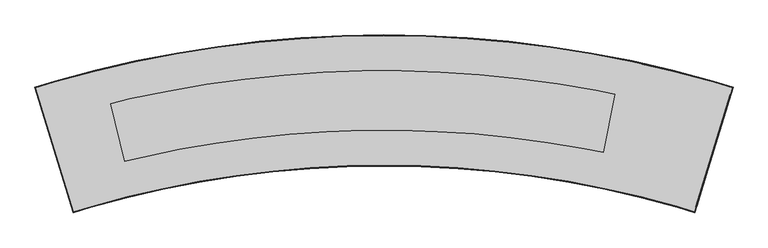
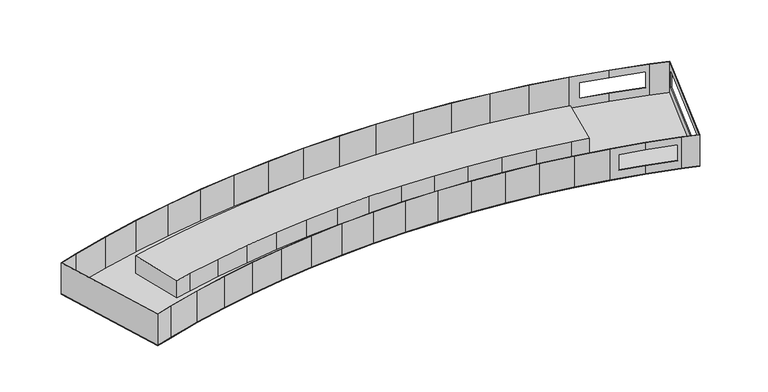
"""IFC4 building model written with IfcOpenShell, lengths in millimetres: proxy geometry, Techno_Конвектор встраиваемый_Usual_KVZ_R-250_85 : KVZ R 250-85_П."""

from ifc_helpers import new_model, si_unit, frame, origin, place, context, project, spatial, polyline, outline, extrude, faceted_brep, source, transform, mapped, element, save


def mechanical_equipment_6d7a2586(model_context):
    return source(origin(), model_context, "Body", "SolidModel", [
        extrude(outline(polyline([(888.1405572, 10.939734), (868.2154773, -87.0551189), (837.6590825, -80.8421537), (776.1618706, -70.4850437), (714.3502505, -62.2085455), (652.2945943, -56.0220819), (590.0655519, -51.9326961), (527.7339705, -49.9450438), (465.3708142, -50.061388), (403.047083, -52.2815962), (340.8337319, -56.6031407), (278.8015904, -63.0211015), (217.0212817, -71.5281718), (155.563142, -82.1146663), (94.4971411, -94.7685324), (64.1949716, -102.1219481), (40.6124484, -4.9423999), (72.5543457, 2.8089279), (136.9247839, 16.1475271), (201.7085805, 27.3068838), (266.8319795, 36.2742934), (332.2208386, 43.0395465), (397.800713, 47.5949408), (463.4969405, 49.9352901), (529.2347265, 50.05793), (594.9392289, 47.9627208), (660.5356438, 43.6520479), (725.94929, 37.1308189), (791.1056947, 28.4064582), (855.9306778, 17.4888985), (888.1405572, 10.939734)])), frame((0.0, 0.0, -69.8), z_axis=(0.0, 0.0, 1.0), x_axis=(1.0, 0.0, 0.0)), (0.0, 0.0, 1.0), 35.0),
        extrude(outline(polyline([(1086.9166428, 22.5197459), (1022.5025267, -188.257344), (992.670603, -179.1406179), (932.4069846, -162.9996836), (871.6169593, -148.9709168), (810.3745323, -137.0713961), (748.7542592, -127.3156078), (686.8311557, -119.7154284), (624.6806064, -114.2801103), (562.3782725, -111.0162705), (500.0, -109.9278822), (437.6217275, -111.0162705), (375.3193936, -114.2801103), (313.1688443, -119.7154284), (251.2457408, -127.3156078), (189.6254677, -137.0713961), (128.3830407, -148.9709168), (67.5930154, -162.9996836), (7.329397, -179.1406179), (-22.5025267, -188.257344), (-86.9166428, 22.5197459), (-53.4070393, 32.7603821), (14.2858785, 50.891171), (82.5700986, 66.6494042), (151.3624926, 80.015898), (220.5793135, 90.97438), (290.1362977, 99.5115095), (359.9487673, 105.6168936), (429.9317335, 109.2830997), (500.0, 110.5056645), (570.0682665, 109.2830997), (640.0512327, 105.6168936), (709.8637023, 99.5115095), (779.4206865, 90.97438), (848.6375074, 80.015898), (917.4299014, 66.6494042), (985.7141215, 50.891171), (1053.4070393, 32.7603821), (1086.9166428, 22.5197459)])), frame((0.0, 0.0, -85.0), z_axis=(0.0, 0.0, 1.0), x_axis=(1.0, 0.0, 0.0)), (0.0, 0.0, 1.0), 1.2),
        faceted_brep([(-86.9166428, 22.5197459, -20.5), (-86.9166428, 22.5197459, -85.0), (-22.5025267, -188.257344, -85.0), (-22.5025267, -188.257344, -20.5), (1022.5025267, -188.257344, -20.5), (1022.5025267, -188.257344, -85.0), (1086.9166428, 22.5197459, -85.0), (1086.9166428, 22.5197459, -20.5), (1025.4835792, -178.5026874, -33.0), (1083.2341661, 10.469876, -33.0), (1083.2341661, 10.469876, -65.0), (1025.4835792, -178.5026874, -65.0), (-85.4183241, 21.7228513, -85.0), (-85.4183241, 21.7228513, -20.5), (-21.7056321, -186.7590253, -20.5), (-21.7056321, -186.7590253, -85.0), (1021.7056321, -186.7590253, -85.0), (1021.7056321, -186.7590253, -20.5), (1085.4183241, 21.7228513, -20.5), (1085.4183241, 21.7228513, -85.0), (1082.0865595, 10.820588, -33.0), (1024.3359726, -178.1519754, -33.0), (1024.3359726, -178.1519754, -65.0), (1082.0865595, 10.820588, -65.0), (7.329397, -179.1406179, -85.0), (7.329397, -179.1406179, -20.5), (6.978685, -177.9930113, -20.5), (6.978685, -177.9930113, -85.0), (67.5930154, -162.9996836, -85.0), (67.5930154, -162.9996836, -20.5), (67.282552, -161.8405406, -20.5), (67.282552, -161.8405406, -85.0), (128.3830407, -148.9709168, -85.0), (128.3830407, -148.9709168, -20.5), (128.1132038, -147.8016486, -20.5), (128.1132038, -147.8016486, -85.0), (189.6254677, -137.0713961, -85.0), (189.6254677, -137.0713961, -20.5), (189.3965859, -135.8934262, -20.5), (189.3965859, -135.8934262, -85.0), (251.2457408, -127.3156078, -85.0), (251.2457408, -127.3156078, -20.5), (251.0580927, -126.1303702, -20.5), (251.0580927, -126.1303702, -85.0), (313.1688443, -119.7154284, -85.0), (313.1688443, -119.7154284, -20.5), (313.0226583, -118.524366, -20.5), (313.0226583, -118.524366, -85.0), (375.3193936, -114.2801103, -85.0), (375.3193936, -114.2801103, -20.5), (375.2148478, -113.0846731, -20.5), (375.2148478, -113.0846731, -85.0), (437.6217275, -111.0162705, -85.0), (437.6217275, -111.0162705, -20.5), (437.5589491, -109.8179138, -20.5), (437.5589491, -109.8179138, -85.0), (500.0, -109.9278822, -85.0), (500.0, -109.9278822, -20.5), (499.9790654, -108.7280648, -20.5), (499.9790654, -108.7280648, -85.0), (562.3782725, -111.0162705, -85.0), (562.3782725, -111.0162705, -20.5), (562.3992071, -109.8164531, -20.5), (562.3992071, -109.8164531, -85.0), (1053.4070393, 32.7603821, -85.0), (1053.4070393, 32.7603821, -20.5), (1053.0563272, 31.6127754, -20.5), (1053.0563272, 31.6127754, -85.0), (985.7141215, 50.891171, -85.0), (985.7141215, 50.891171, -67.0), (1046.7669959, 34.5388432, -67.0), (1046.7669959, 34.5388432, -35.0), (985.7141215, 50.891171, -35.0), (985.7141215, 50.891171, -20.5), (985.4036581, 49.732028, -20.5), (985.4036581, 49.732028, -35.0), (1046.4402753, 33.3840546, -35.0), (1046.4402753, 33.3840546, -67.0), (985.4036581, 49.732028, -67.0), (985.4036581, 49.732028, -85.0), (917.4299014, 66.6494042, -85.0), (917.4299014, 66.6494042, -20.5), (934.7189197, 62.6595456, -35.0), (934.7189197, 62.6595456, -67.0), (917.1600645, 65.4801361, -20.5), (917.1600645, 65.4801361, -85.0), (934.4591533, 61.4879534, -67.0), (934.4591533, 61.4879534, -35.0), (848.6375074, 80.015898, -85.0), (848.6375074, 80.015898, -20.5), (848.4086256, 78.837928, -20.5), (848.4086256, 78.837928, -85.0), (779.4206865, 90.97438, -85.0), (779.4206865, 90.97438, -20.5), (779.2330384, 89.7891423, -20.5), (779.2330384, 89.7891423, -85.0), (709.8637023, 99.5115095, -85.0), (709.8637023, 99.5115095, -20.5), (709.7175163, 98.3204471, -20.5), (709.7175163, 98.3204471, -85.0), (640.0512327, 105.6168936, -85.0), (640.0512327, 105.6168936, -20.5), (639.9466868, 104.4214564, -20.5), (639.9466868, 104.4214564, -85.0), (570.0682665, 109.2830997, -85.0), (570.0682665, 109.2830997, -20.5), (570.005488, 108.0847429, -20.5), (570.005488, 108.0847429, -85.0), (500.0, 110.5056645, -85.0), (500.0, 110.5056645, -20.5), (499.9790654, 109.3058471, -20.5), (499.9790654, 109.3058471, -85.0), (429.9317335, 109.2830997, -85.0), (429.9317335, 109.2830997, -20.5), (429.9526682, 108.0832823, -20.5), (429.9526682, 108.0832823, -85.0), (986.7593045, -177.5573429, -35.0), (987.0860251, -176.4025542, -35.0), (987.0860251, -176.4025542, -67.0), (986.7593045, -177.5573429, -67.0), (932.6769858, -161.8297032, -67.0), (887.2682737, -151.3512961, -67.0), (887.0085074, -152.5228883, -67.0), (932.4069846, -162.9996836, -67.0), (932.4069846, -162.9996836, -35.0), (887.0085074, -152.5228883, -35.0), (887.2682737, -151.3512961, -35.0), (932.6768214, -161.8304154, -35.0), (624.6806064, -114.2801103, -85.0), (624.6806064, -114.2801103, -20.5), (624.7433849, -113.0817536, -20.5), (624.7433849, -113.0817536, -85.0), (686.8311557, -119.7154284, -85.0), (686.8311557, -119.7154284, -20.5), (686.9357016, -118.5199912, -20.5), (686.9357016, -118.5199912, -85.0), (748.7542592, -127.3156078, -85.0), (748.7542592, -127.3156078, -20.5), (748.9004451, -126.1245454, -20.5), (748.9004451, -126.1245454, -85.0), (810.3745323, -137.0713961, -85.0), (810.3745323, -137.0713961, -20.5), (810.5621804, -135.8861585, -20.5), (810.5621804, -135.8861585, -85.0), (871.6169593, -148.9709168, -85.0), (871.6169593, -148.9709168, -20.5), (871.8458411, -147.7929469, -20.5), (871.8458411, -147.7929469, -85.0), (932.4069846, -162.9996836, -85.0), (932.4069846, -162.9996836, -20.5), (932.6768214, -161.8304154, -20.5), (932.6768214, -161.8304154, -85.0), (992.670603, -179.1406179, -85.0), (992.670603, -179.1406179, -20.5), (992.9810664, -177.9814749, -20.5), (992.9810664, -177.9814749, -85.0), (359.9487673, 105.6168936, -85.0), (359.9487673, 105.6168936, -20.5), (360.0115458, 104.4185369, -20.5), (360.0115458, 104.4185369, -85.0), (290.1362977, 99.5115095, -85.0), (290.1362977, 99.5115095, -20.5), (290.2408436, 98.3160723, -20.5), (290.2408436, 98.3160723, -85.0), (220.5793135, 90.97438, -85.0), (220.5793135, 90.97438, -20.5), (220.7254995, 89.7833175, -20.5), (220.7254995, 89.7833175, -85.0), (151.3624926, 80.015898, -85.0), (151.3624926, 80.015898, -20.5), (151.5501407, 78.8306604, -20.5), (151.5501407, 78.8306604, -85.0), (82.5700986, 66.6494042, -85.0), (82.5700986, 66.6494042, -20.5), (82.7989804, 65.4714343, -20.5), (82.7989804, 65.4714343, -85.0), (14.2858785, 50.891171, -85.0), (14.2858785, 50.891171, -20.5), (14.5557154, 49.7219028, -20.5), (14.5557154, 49.7219028, -85.0), (-53.4070393, 32.7603821, -85.0), (-53.4070393, 32.7603821, -20.5), (-53.0965759, 31.6012391, -20.5), (-53.0965759, 31.6012391, -85.0)], [[[0, 1, 2, 3]], [[4, 5, 6, 7], [8, 9, 10, 11]], [[12, 13, 14, 15]], [[16, 17, 18, 19], [20, 21, 22, 23]], [[3, 2, 24, 25]], [[15, 14, 26, 27]], [[25, 24, 28, 29]], [[27, 26, 30, 31]], [[29, 28, 32, 33]], [[31, 30, 34, 35]], [[33, 32, 36, 37]], [[35, 34, 38, 39]], [[37, 36, 40, 41]], [[39, 38, 42, 43]], [[41, 40, 44, 45]], [[43, 42, 46, 47]], [[45, 44, 48, 49]], [[47, 46, 50, 51]], [[49, 48, 52, 53]], [[51, 50, 54, 55]], [[53, 52, 56, 57]], [[55, 54, 58, 59]], [[57, 56, 60, 61]], [[59, 58, 62, 63]], [[7, 6, 64, 65]], [[19, 18, 66, 67]], [[65, 64, 68, 69, 70, 71, 72, 73]], [[67, 66, 74, 75, 76, 77, 78, 79]], [[68, 80, 81, 73, 72, 82, 83, 69]], [[74, 84, 85, 79, 78, 86, 87, 75]], [[81, 80, 88, 89]], [[85, 84, 90, 91]], [[89, 88, 92, 93]], [[91, 90, 94, 95]], [[93, 92, 96, 97]], [[95, 94, 98, 99]], [[97, 96, 100, 101]], [[99, 98, 102, 103]], [[101, 100, 104, 105]], [[103, 102, 106, 107]], [[105, 104, 108, 109]], [[107, 106, 110, 111]], [[109, 108, 112, 113]], [[111, 110, 114, 115]], [[20, 9, 8, 21]], [[21, 8, 11, 22]], [[22, 11, 10, 23]], [[9, 20, 23, 10]], [[116, 117, 118, 119]], [[76, 71, 70, 77]], [[119, 118, 120, 121, 122, 123]], [[77, 70, 69, 83, 86, 78]], [[117, 116, 124, 125, 126, 127]], [[71, 76, 75, 87, 82, 72]], [[122, 121, 126, 125]], [[86, 83, 82, 87]], [[61, 60, 128, 129]], [[63, 62, 130, 131]], [[129, 128, 132, 133]], [[131, 130, 134, 135]], [[133, 132, 136, 137]], [[135, 134, 138, 139]], [[137, 136, 140, 141]], [[139, 138, 142, 143]], [[141, 140, 144, 145]], [[143, 142, 146, 147]], [[145, 144, 148, 123, 122, 125, 124, 149]], [[147, 146, 150, 127, 126, 121, 120, 151]], [[148, 152, 153, 149, 124, 116, 119, 123]], [[150, 154, 155, 151, 120, 118, 117, 127]], [[113, 112, 156, 157]], [[115, 114, 158, 159]], [[157, 156, 160, 161]], [[159, 158, 162, 163]], [[161, 160, 164, 165]], [[163, 162, 166, 167]], [[165, 164, 168, 169]], [[167, 166, 170, 171]], [[169, 168, 172, 173]], [[171, 170, 174, 175]], [[173, 172, 176, 177]], [[175, 174, 178, 179]], [[177, 176, 180, 181]], [[179, 178, 182, 183]], [[5, 4, 153, 152]], [[17, 16, 155, 154]], [[1, 0, 181, 180]], [[13, 12, 183, 182]], [[0, 3, 25, 29, 33, 37, 41, 45, 49, 53, 57, 61, 129, 133, 137, 141, 145, 149, 153, 4, 7, 65, 73, 81, 89, 93, 97, 101, 105, 109, 113, 157, 161, 165, 169, 173, 177, 181], [14, 13, 182, 178, 174, 170, 166, 162, 158, 114, 110, 106, 102, 98, 94, 90, 84, 74, 66, 18, 17, 154, 150, 146, 142, 138, 134, 130, 62, 58, 54, 50, 46, 42, 38, 34, 30, 26]], [[2, 1, 180, 176, 172, 168, 164, 160, 156, 112, 108, 104, 100, 96, 92, 88, 80, 68, 64, 6, 5, 152, 148, 144, 140, 136, 132, 128, 60, 56, 52, 48, 44, 40, 36, 32, 28, 24], [12, 15, 27, 31, 35, 39, 43, 47, 51, 55, 59, 63, 131, 135, 139, 143, 147, 151, 155, 16, 19, 67, 79, 85, 91, 95, 99, 103, 107, 111, 115, 159, 163, 167, 171, 175, 179, 183]]]),
    ])


if __name__ == "__main__":
    model = new_model("IFC4")
    model_context = context("Model", 3, world=origin())
    ifc_project = project(units=[si_unit("LENGTHUNIT", "METRE", prefix="MILLI")], contexts=[model_context])
    site = spatial("IfcSite", under=ifc_project)
    building = spatial("IfcBuilding", under=site)
    placement = place(None, origin())
    mechanical_equipment_shape = mechanical_equipment_6d7a2586(model_context)
    element("IfcBuildingElementProxy", 1, Name="Techno_Конвектор встраиваемый_Usual_KVZ_R-250_85 : KVZ R 250-85_П", ObjectType="Techno_Конвектор встраиваемый_Usual_KVZ_R-250_85 : KVZ R 250-85_П", at=placement, inside=building, context=model_context, shape_type="MappedRepresentation", body=[
        mapped(mechanical_equipment_shape, transform((0.0, 0.0, 0.0), x_axis=(1.0, 0.0, 0.0), y_axis=(0.0, 1.0, 0.0), z_axis=(0.0, 0.0, 1.0))),
    ])
    save(model, "model.ifc")
